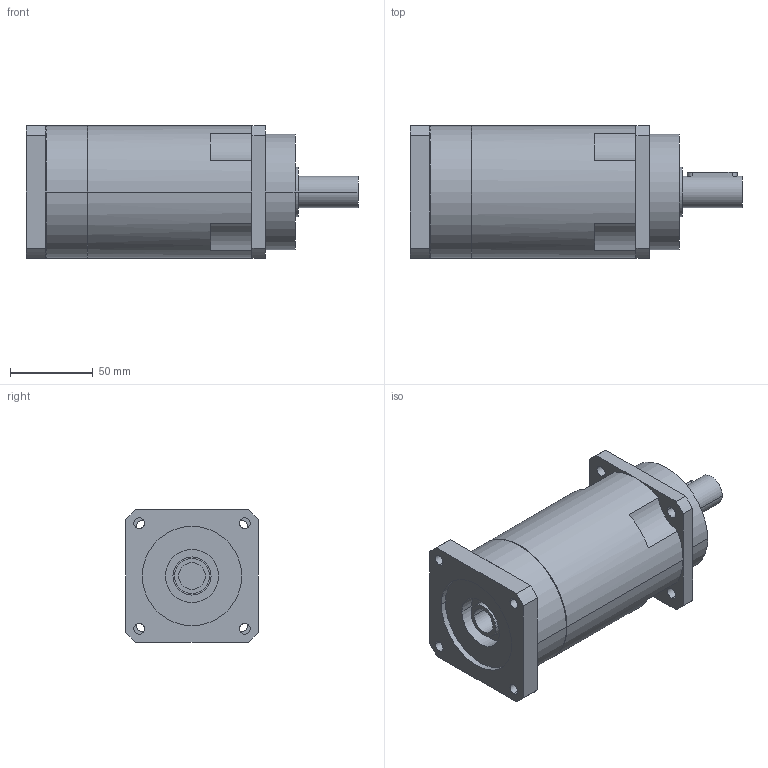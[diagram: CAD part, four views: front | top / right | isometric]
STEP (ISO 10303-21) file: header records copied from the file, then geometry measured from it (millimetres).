
FILE_DESCRIPTION(('CoCreate Modeling STEP Export'),'2;1');
FILE_NAME('GPR100_ig-48-64-80-100-120-144-180-216_19_B5_16_P19.stp','2014-08-26T11:55:47',(''),(''),'CoCreate Modeling STEP processor for AP214 (Solid Model)','CoCreate Modeling 16.00C 25-Feb-2009 (C) Parametric Technology GmbH','');
FILE_SCHEMA(('AUTOMOTIVE_DESIGN { 1 0 10303 214 1 1 1 1 }'));
Length unit declared in the file: millimetre
Products named in the file (2): GPR100_ig-48-64-80-100-120-144-180-216_19_B5_16_P19
Assembly tree (1 placements, depth 2):
  GPR100_ig-48-64-80-100-120-144-180-216_19_B5_16_P19
    GPR100_ig-48-64-80-100-120-144-180-216_19_B5_16_P19
Bounding box: 200.4 x 80 x 80 mm (x, y, z)
Volume: 798395.5 mm3; surface area: 65502 mm2
Topology: 1 solids, 1 shells, 101 faces, 287 edges, 197 vertices
Faces by surface type: cylinder 60, plane 35, cone 6
Entity records: 2996 total; most frequent: CARTESIAN_POINT 578, ORIENTED_EDGE 570, DIRECTION 426, EDGE_CURVE 285, VERTEX_POINT 197, AXIS2_PLACEMENT_3D 161, EDGE_LOOP 128, VECTOR 104
